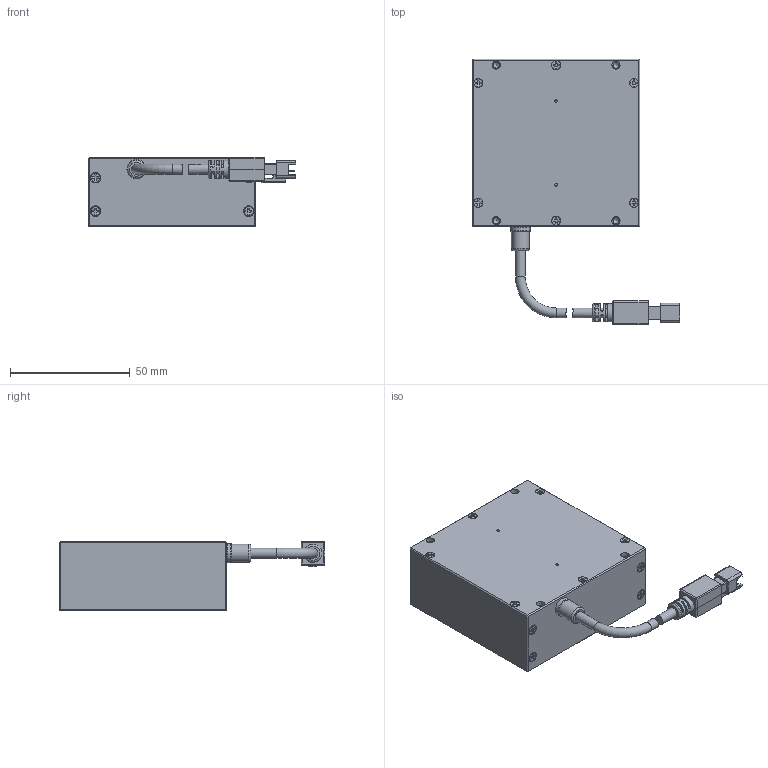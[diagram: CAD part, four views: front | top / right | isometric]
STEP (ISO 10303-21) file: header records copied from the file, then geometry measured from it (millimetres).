
FILE_DESCRIPTION (( 'STEP AP203' ), '1' );
FILE_NAME ('OPT-IFLA7070-IR-V1.0尨砩芞.STEP', '2024-12-17T07:25:44', ( '' ), ( '' ), 'SwSTEP 2.0', 'SolidWorks 2016', '' );
FILE_SCHEMA (( 'CONFIG_CONTROL_DESIGN' ));
Length unit declared in the file: millimetre
Products named in the file (1): OPT-IFLA7070-IR-V1.0尨砩芞
Bounding box: 86.6 x 111 x 29 mm (x, y, z)
Volume: 142291 mm3; surface area: 23894.3 mm2
Topology: 13 solids, 21 shells, 743 faces, 1730 edges, 1069 vertices
Faces by surface type: plane 431, cylinder 217, cone 66, bspline 20, torus 9
Full cylindrical faces by diameter (mm): 1.1 x2, 1.6 x14, 2 x14, 2.4 x14, 2.5 x4, 3.4 x4, 3.5 x1, 3.8 x14, 4.1 x4, 5.8 x1, 7.5 x2, 8 x1
Entity records: 20430 total; most frequent: CARTESIAN_POINT 4279, DIRECTION 3360, ORIENTED_EDGE 3084, EDGE_CURVE 1542, AXIS2_PLACEMENT_3D 1170, VERTEX_POINT 1023, VECTOR 1020, LINE 1020
